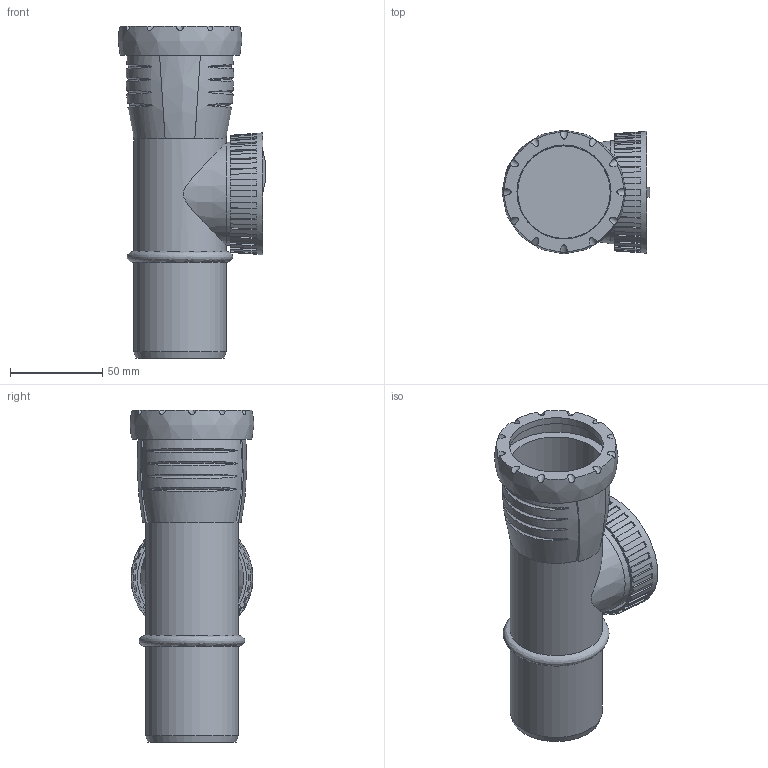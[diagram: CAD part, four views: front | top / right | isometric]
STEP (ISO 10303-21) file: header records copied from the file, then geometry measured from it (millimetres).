
FILE_DESCRIPTION(/* description */ (''),/* implementation_level */ '2;1');
FILE_NAME(/* name */ 'H:\Geberit-Teile\Export\Rein Stück PP\stp\393227.stp',/* time_stamp */ '2017-02-13T15:11:18+01:00',/* author */ ('seihe2'),/* organization */ (''),/* preprocessor_version */ 'ST-DEVELOPER v15.2',/* originating_system */ 'Autodesk Inventor 2014',/* authorisation */ '');
FILE_SCHEMA (('AUTOMOTIVE_DESIGN { 1 0 10303 214 3 1 1 }'));
Length unit declared in the file: millimetre
Products named in the file (1): 393227
Bounding box: 80.15 x 67.08 x 180 mm (x, y, z)
Volume: 328156.2 mm3; surface area: 85998.6 mm2
Topology: 5 solids, 5 shells, 206 faces, 558 edges, 376 vertices
Faces by surface type: plane 148, bspline 24, cylinder 23, cone 11
Full cylindrical faces by diameter (mm): 36.243 x1, 44.15 x1, 50.15 x3, 50.7 x1, 51 x1, 55.76 x1, 60.1 x1
Entity records: 8891 total; most frequent: CARTESIAN_POINT 3836, ORIENTED_EDGE 1078, DIRECTION 900, EDGE_CURVE 538, VERTEX_POINT 371, AXIS2_PLACEMENT_3D 319, LINE 262, VECTOR 262
